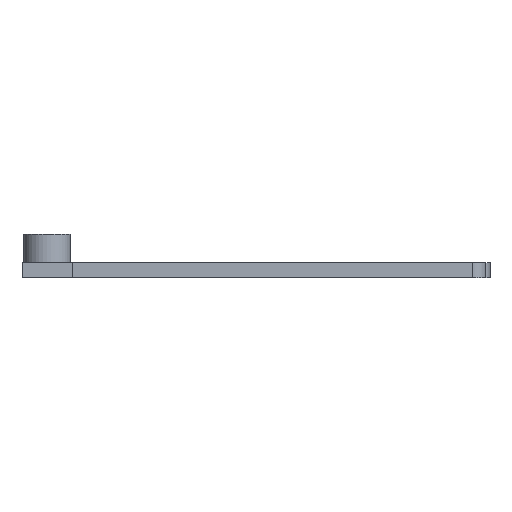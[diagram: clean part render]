
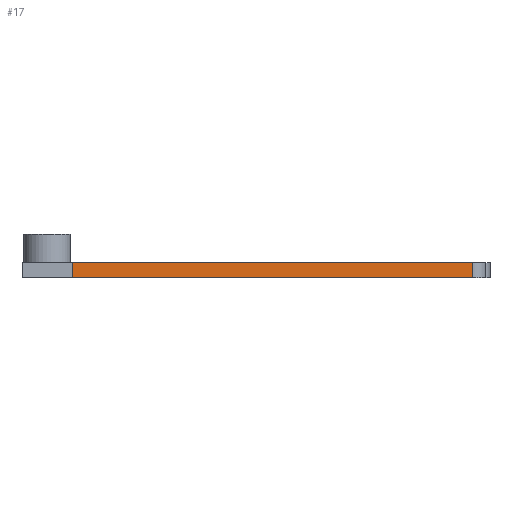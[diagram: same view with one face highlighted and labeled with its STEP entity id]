
A CAD part, left-side view. The second image highlights one B-rep face of the part: STEP entity #17.
In plain terms, the highlighted planar face has unit normal (-1, 0, 0).
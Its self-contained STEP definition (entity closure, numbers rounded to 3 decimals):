
#17 = ADVANCED_FACE('',(#18),#32,.T.);
#18 = FACE_BOUND('',#19,.T.);
#19 = EDGE_LOOP('',(#20,#55,#83,#111));
#20 = ORIENTED_EDGE('',*,*,#21,.F.);
#21 = EDGE_CURVE('',#22,#24,#26,.T.);
#22 = VERTEX_POINT('',#23);
#23 = CARTESIAN_POINT('',(-35.25,-32.25,0.));
#24 = VERTEX_POINT('',#25);
#25 = CARTESIAN_POINT('',(-35.25,31.5,0.));
#26 = SURFACE_CURVE('',#27,(#31,#43),.PCURVE_S1.);
#27 = LINE('',#28,#29);
#28 = CARTESIAN_POINT('',(-35.25,0.,0.));
#29 = VECTOR('',#30,1.);
#30 = DIRECTION('',(0.,1.,0.));
#31 = PCURVE('',#32,#37);
#32 = PLANE('',#33);
#33 = AXIS2_PLACEMENT_3D('',#34,#35,#36);
#34 = CARTESIAN_POINT('',(-35.25,-32.25,0.));
#35 = DIRECTION('',(-1.,0.,0.));
#36 = DIRECTION('',(0.,1.,0.));
#37 = DEFINITIONAL_REPRESENTATION('',(#38),#42);
#38 = LINE('',#39,#40);
#39 = CARTESIAN_POINT('',(32.25,0.));
#40 = VECTOR('',#41,1.);
#41 = DIRECTION('',(1.,0.));
#42 = ( GEOMETRIC_REPRESENTATION_CONTEXT(2) 
PARAMETRIC_REPRESENTATION_CONTEXT() REPRESENTATION_CONTEXT('2D SPACE',''
  ) );
#43 = PCURVE('',#44,#49);
#44 = PLANE('',#45);
#45 = AXIS2_PLACEMENT_3D('',#46,#47,#48);
#46 = CARTESIAN_POINT('',(-19.,0.,0.));
#47 = DIRECTION('',(0.,0.,1.));
#48 = DIRECTION('',(1.,0.,-0.));
#49 = DEFINITIONAL_REPRESENTATION('',(#50),#54);
#50 = LINE('',#51,#52);
#51 = CARTESIAN_POINT('',(-16.25,0.));
#52 = VECTOR('',#53,1.);
#53 = DIRECTION('',(0.,1.));
#54 = ( GEOMETRIC_REPRESENTATION_CONTEXT(2) 
PARAMETRIC_REPRESENTATION_CONTEXT() REPRESENTATION_CONTEXT('2D SPACE',''
  ) );
#55 = ORIENTED_EDGE('',*,*,#56,.T.);
#56 = EDGE_CURVE('',#22,#57,#59,.T.);
#57 = VERTEX_POINT('',#58);
#58 = CARTESIAN_POINT('',(-35.25,-32.25,2.4));
#59 = SURFACE_CURVE('',#60,(#64,#71),.PCURVE_S1.);
#60 = LINE('',#61,#62);
#61 = CARTESIAN_POINT('',(-35.25,-32.25,0.));
#62 = VECTOR('',#63,1.);
#63 = DIRECTION('',(0.,0.,1.));
#64 = PCURVE('',#32,#65);
#65 = DEFINITIONAL_REPRESENTATION('',(#66),#70);
#66 = LINE('',#67,#68);
#67 = CARTESIAN_POINT('',(0.,0.));
#68 = VECTOR('',#69,1.);
#69 = DIRECTION('',(0.,-1.));
#70 = ( GEOMETRIC_REPRESENTATION_CONTEXT(2) 
PARAMETRIC_REPRESENTATION_CONTEXT() REPRESENTATION_CONTEXT('2D SPACE',''
  ) );
#71 = PCURVE('',#72,#77);
#72 = CYLINDRICAL_SURFACE('',#73,2.);
#73 = AXIS2_PLACEMENT_3D('',#74,#75,#76);
#74 = CARTESIAN_POINT('',(-33.25,-32.25,0.));
#75 = DIRECTION('',(0.,0.,-1.));
#76 = DIRECTION('',(-1.,0.,0.));
#77 = DEFINITIONAL_REPRESENTATION('',(#78),#82);
#78 = LINE('',#79,#80);
#79 = CARTESIAN_POINT('',(6.283,0.));
#80 = VECTOR('',#81,1.);
#81 = DIRECTION('',(0.,-1.));
#82 = ( GEOMETRIC_REPRESENTATION_CONTEXT(2) 
PARAMETRIC_REPRESENTATION_CONTEXT() REPRESENTATION_CONTEXT('2D SPACE',''
  ) );
#83 = ORIENTED_EDGE('',*,*,#84,.T.);
#84 = EDGE_CURVE('',#57,#85,#87,.T.);
#85 = VERTEX_POINT('',#86);
#86 = CARTESIAN_POINT('',(-35.25,31.5,2.4));
#87 = SURFACE_CURVE('',#88,(#92,#99),.PCURVE_S1.);
#88 = LINE('',#89,#90);
#89 = CARTESIAN_POINT('',(-35.25,0.,2.4));
#90 = VECTOR('',#91,1.);
#91 = DIRECTION('',(0.,1.,0.));
#92 = PCURVE('',#32,#93);
#93 = DEFINITIONAL_REPRESENTATION('',(#94),#98);
#94 = LINE('',#95,#96);
#95 = CARTESIAN_POINT('',(32.25,-2.4));
#96 = VECTOR('',#97,1.);
#97 = DIRECTION('',(1.,0.));
#98 = ( GEOMETRIC_REPRESENTATION_CONTEXT(2) 
PARAMETRIC_REPRESENTATION_CONTEXT() REPRESENTATION_CONTEXT('2D SPACE',''
  ) );
#99 = PCURVE('',#100,#105);
#100 = PLANE('',#101);
#101 = AXIS2_PLACEMENT_3D('',#102,#103,#104);
#102 = CARTESIAN_POINT('',(-19.,0.,2.4));
#103 = DIRECTION('',(0.,0.,1.));
#104 = DIRECTION('',(1.,0.,-0.));
#105 = DEFINITIONAL_REPRESENTATION('',(#106),#110);
#106 = LINE('',#107,#108);
#107 = CARTESIAN_POINT('',(-16.25,0.));
#108 = VECTOR('',#109,1.);
#109 = DIRECTION('',(0.,1.));
#110 = ( GEOMETRIC_REPRESENTATION_CONTEXT(2) 
PARAMETRIC_REPRESENTATION_CONTEXT() REPRESENTATION_CONTEXT('2D SPACE',''
  ) );
#111 = ORIENTED_EDGE('',*,*,#112,.T.);
#112 = EDGE_CURVE('',#85,#24,#113,.T.);
#113 = SURFACE_CURVE('',#114,(#118,#124),.PCURVE_S1.);
#114 = LINE('',#115,#116);
#115 = CARTESIAN_POINT('',(-35.25,31.5,0.));
#116 = VECTOR('',#117,1.);
#117 = DIRECTION('',(0.,0.,-1.));
#118 = PCURVE('',#32,#119);
#119 = DEFINITIONAL_REPRESENTATION('',(#120),#123);
#120 = B_SPLINE_CURVE_WITH_KNOTS('',1,(#121,#122),.UNSPECIFIED.,.F.,.F.,
  (2,2),(-2.4,0.),.PIECEWISE_BEZIER_KNOTS.);
#121 = CARTESIAN_POINT('',(63.75,-2.4));
#122 = CARTESIAN_POINT('',(63.75,0.));
#123 = ( GEOMETRIC_REPRESENTATION_CONTEXT(2) 
PARAMETRIC_REPRESENTATION_CONTEXT() REPRESENTATION_CONTEXT('2D SPACE',''
  ) );
#124 = PCURVE('',#125,#130);
#125 = PLANE('',#126);
#126 = AXIS2_PLACEMENT_3D('',#127,#128,#129);
#127 = CARTESIAN_POINT('',(-37.,31.5,0.));
#128 = DIRECTION('',(-0.,1.,0.));
#129 = DIRECTION('',(0.,0.,1.));
#130 = DEFINITIONAL_REPRESENTATION('',(#131),#134);
#131 = B_SPLINE_CURVE_WITH_KNOTS('',1,(#132,#133),.UNSPECIFIED.,.F.,.F.,
  (2,2),(-2.4,0.),.PIECEWISE_BEZIER_KNOTS.);
#132 = CARTESIAN_POINT('',(2.4,1.75));
#133 = CARTESIAN_POINT('',(0.,1.75));
#134 = ( GEOMETRIC_REPRESENTATION_CONTEXT(2) 
PARAMETRIC_REPRESENTATION_CONTEXT() REPRESENTATION_CONTEXT('2D SPACE',''
  ) );
